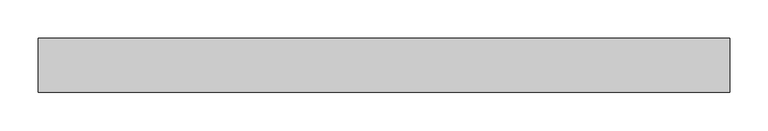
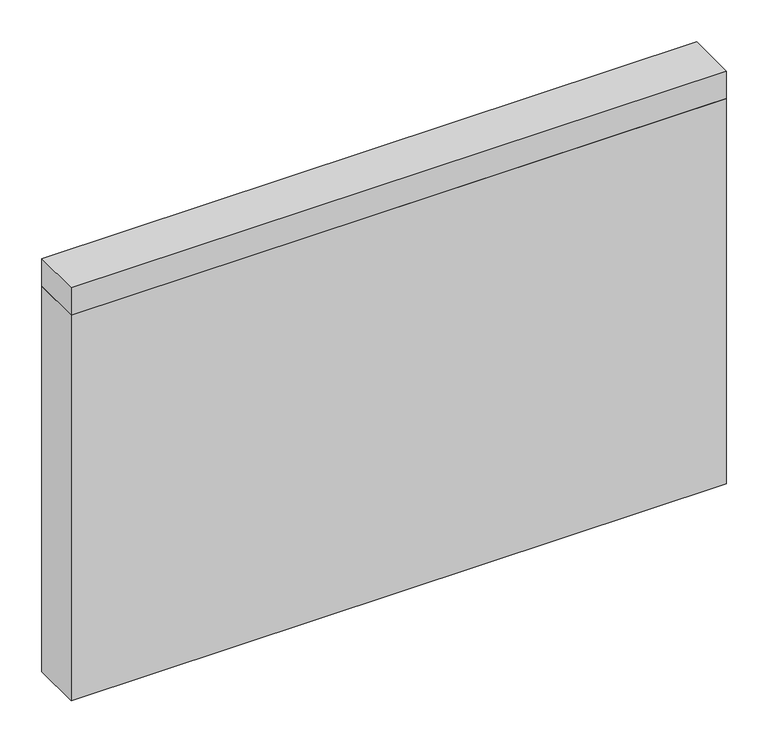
"""IFC4 building model written with IfcOpenShell, lengths in millimetres: plate geometry, 営_パーティションパネル_上部 : パーティションパネル_上部."""

from ifc_helpers import new_model, si_unit, frame, origin, origin_with_axes, place, context, project, spatial, polyline, outline, extrude, source, transform, mapped, element, save


def plate_53a28b3e(model_context):
    return source(origin(), model_context, "Body", "SweptSolid", [
        extrude(outline(polyline([(-450.0000002, -35.0), (-450.0000002, 35.0), (450.0000002, 35.0), (450.0000002, -35.0), (-450.0000002, -35.0)])), origin_with_axes(), (0.0, 0.0, 1.0), 560.0),
        extrude(outline(polyline([(-450.0000002, -35.0), (-450.0000002, 35.0), (450.0000002, 35.0), (450.0000002, -35.0), (-450.0000002, -35.0)])), frame((0.0, 0.0, 560.0), z_axis=(0.0, 0.0, 1.0), x_axis=(1.0, 0.0, 0.0)), (0.0, 0.0, 1.0), 40.0),
    ])


if __name__ == "__main__":
    model = new_model("IFC4")
    model_context = context("Model", 3, world=origin())
    ifc_project = project(units=[si_unit("LENGTHUNIT", "METRE", prefix="MILLI")], contexts=[model_context])
    site = spatial("IfcSite", under=ifc_project)
    building = spatial("IfcBuilding", under=site)
    placement = place(None, origin())
    plate_shape = plate_53a28b3e(model_context)
    element("IfcPlate", 1, ObjectType="営_パーティションパネル_上部 : パーティションパネル_上部", at=placement, inside=building, context=model_context, shape_type="MappedRepresentation", body=[
        mapped(plate_shape, transform((0.0, 0.0, 0.0), x_axis=(1.0, 0.0, 0.0), y_axis=(0.0, 1.0, 0.0), z_axis=(0.0, 0.0, 1.0))),
    ])
    save(model, "model.ifc")
